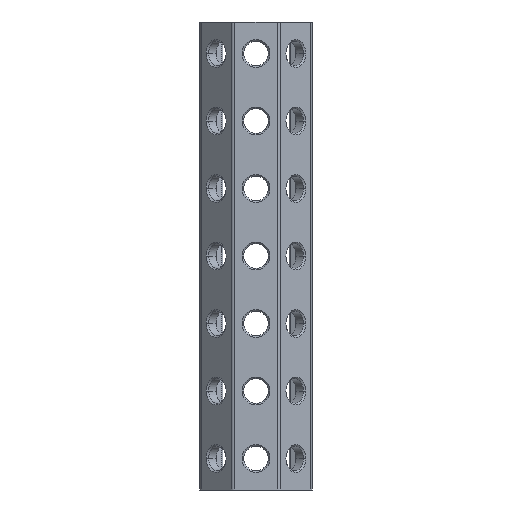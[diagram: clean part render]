
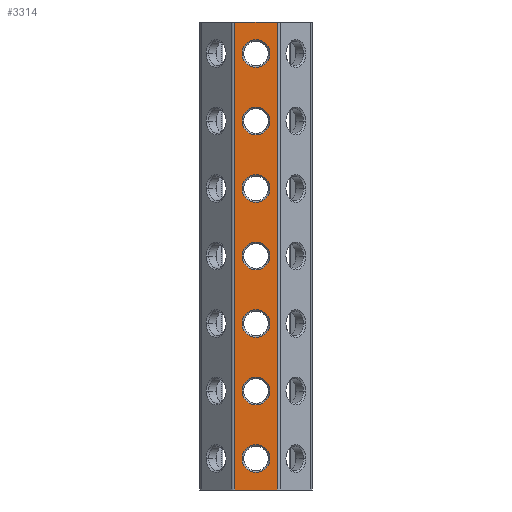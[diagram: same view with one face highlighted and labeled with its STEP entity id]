
A CAD part, left-side view. The second image highlights one B-rep face of the part: STEP entity #3314.
In plain terms, the highlighted planar face has unit normal (-1, 0, 0).
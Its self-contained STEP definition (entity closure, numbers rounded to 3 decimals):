
#1012=CARTESIAN_POINT('Vertex',(-25.,-9.527,-208.)) ;
#1017=CARTESIAN_POINT('Line Origine',(-25.,0.,-208.)) ;
#1021=CARTESIAN_POINT('Vertex',(-25.,9.527,-208.)) ;
#1732=CARTESIAN_POINT('Vertex',(-25.,9.527,0.)) ;
#1735=CARTESIAN_POINT('Line Origine',(-25.,0.,0.)) ;
#1739=CARTESIAN_POINT('Vertex',(-25.,-9.527,0.)) ;
#2781=CARTESIAN_POINT('Line Origine',(-25.,9.527,-4078.)) ;
#3109=CARTESIAN_POINT('Line Origine',(-25.,-9.527,-4078.)) ;
#3121=CARTESIAN_POINT('Axis2P3D Location',(-25.,0.,-4078.)) ;
#3132=CARTESIAN_POINT('Axis2P3D Location',(-25.,0.,-14.)) ;
#3136=CARTESIAN_POINT('Vertex',(-25.,-3.1,-19.369)) ;
#3138=CARTESIAN_POINT('Vertex',(-25.,-6.2,-14.)) ;
#3141=CARTESIAN_POINT('Axis2P3D Location',(-25.,0.,-14.)) ;
#3145=CARTESIAN_POINT('Vertex',(-25.,6.2,-14.)) ;
#3148=CARTESIAN_POINT('Axis2P3D Location',(-25.,0.,-14.)) ;
#3158=CARTESIAN_POINT('Axis2P3D Location',(-25.,0.,-44.)) ;
#3162=CARTESIAN_POINT('Vertex',(-25.,-3.1,-49.369)) ;
#3164=CARTESIAN_POINT('Vertex',(-25.,-6.2,-44.)) ;
#3167=CARTESIAN_POINT('Axis2P3D Location',(-25.,0.,-44.)) ;
#3171=CARTESIAN_POINT('Vertex',(-25.,6.2,-44.)) ;
#3174=CARTESIAN_POINT('Axis2P3D Location',(-25.,0.,-44.)) ;
#3184=CARTESIAN_POINT('Axis2P3D Location',(-25.,0.,-74.)) ;
#3188=CARTESIAN_POINT('Vertex',(-25.,-3.1,-79.369)) ;
#3190=CARTESIAN_POINT('Vertex',(-25.,-6.2,-74.)) ;
#3193=CARTESIAN_POINT('Axis2P3D Location',(-25.,0.,-74.)) ;
#3197=CARTESIAN_POINT('Vertex',(-25.,6.2,-74.)) ;
#3200=CARTESIAN_POINT('Axis2P3D Location',(-25.,0.,-74.)) ;
#3210=CARTESIAN_POINT('Axis2P3D Location',(-25.,0.,-104.)) ;
#3214=CARTESIAN_POINT('Vertex',(-25.,-3.1,-109.369)) ;
#3216=CARTESIAN_POINT('Vertex',(-25.,-6.2,-104.)) ;
#3219=CARTESIAN_POINT('Axis2P3D Location',(-25.,0.,-104.)) ;
#3223=CARTESIAN_POINT('Vertex',(-25.,6.2,-104.)) ;
#3226=CARTESIAN_POINT('Axis2P3D Location',(-25.,0.,-104.)) ;
#3236=CARTESIAN_POINT('Axis2P3D Location',(-25.,0.,-134.)) ;
#3240=CARTESIAN_POINT('Vertex',(-25.,-3.1,-139.369)) ;
#3242=CARTESIAN_POINT('Vertex',(-25.,-6.2,-134.)) ;
#3245=CARTESIAN_POINT('Axis2P3D Location',(-25.,0.,-134.)) ;
#3249=CARTESIAN_POINT('Vertex',(-25.,6.2,-134.)) ;
#3252=CARTESIAN_POINT('Axis2P3D Location',(-25.,0.,-134.)) ;
#3262=CARTESIAN_POINT('Axis2P3D Location',(-25.,0.,-164.)) ;
#3266=CARTESIAN_POINT('Vertex',(-25.,-3.1,-169.369)) ;
#3268=CARTESIAN_POINT('Vertex',(-25.,-6.2,-164.)) ;
#3271=CARTESIAN_POINT('Axis2P3D Location',(-25.,0.,-164.)) ;
#3275=CARTESIAN_POINT('Vertex',(-25.,6.2,-164.)) ;
#3278=CARTESIAN_POINT('Axis2P3D Location',(-25.,0.,-164.)) ;
#3288=CARTESIAN_POINT('Axis2P3D Location',(-25.,0.,-194.)) ;
#3292=CARTESIAN_POINT('Vertex',(-25.,-3.1,-199.369)) ;
#3294=CARTESIAN_POINT('Vertex',(-25.,-6.2,-194.)) ;
#3297=CARTESIAN_POINT('Axis2P3D Location',(-25.,0.,-194.)) ;
#3301=CARTESIAN_POINT('Vertex',(-25.,6.2,-194.)) ;
#3304=CARTESIAN_POINT('Axis2P3D Location',(-25.,0.,-194.)) ;
#1018=DIRECTION('Vector Direction',(0.,-1.,0.)) ;
#1736=DIRECTION('Vector Direction',(0.,-1.,0.)) ;
#2782=DIRECTION('Vector Direction',(0.,0.,1.)) ;
#3110=DIRECTION('Vector Direction',(0.,0.,1.)) ;
#3122=DIRECTION('Axis2P3D Direction',(-1.,0.,0.)) ;
#3123=DIRECTION('Axis2P3D XDirection',(0.,-1.,0.)) ;
#3133=DIRECTION('Axis2P3D Direction',(-1.,0.,0.)) ;
#3142=DIRECTION('Axis2P3D Direction',(-1.,0.,0.)) ;
#3149=DIRECTION('Axis2P3D Direction',(-1.,0.,0.)) ;
#3159=DIRECTION('Axis2P3D Direction',(-1.,0.,0.)) ;
#3168=DIRECTION('Axis2P3D Direction',(-1.,0.,0.)) ;
#3175=DIRECTION('Axis2P3D Direction',(-1.,0.,0.)) ;
#3185=DIRECTION('Axis2P3D Direction',(-1.,0.,0.)) ;
#3194=DIRECTION('Axis2P3D Direction',(-1.,0.,0.)) ;
#3201=DIRECTION('Axis2P3D Direction',(-1.,0.,0.)) ;
#3211=DIRECTION('Axis2P3D Direction',(-1.,0.,0.)) ;
#3220=DIRECTION('Axis2P3D Direction',(-1.,0.,0.)) ;
#3227=DIRECTION('Axis2P3D Direction',(-1.,0.,0.)) ;
#3237=DIRECTION('Axis2P3D Direction',(-1.,0.,0.)) ;
#3246=DIRECTION('Axis2P3D Direction',(-1.,0.,0.)) ;
#3253=DIRECTION('Axis2P3D Direction',(-1.,0.,0.)) ;
#3263=DIRECTION('Axis2P3D Direction',(-1.,0.,0.)) ;
#3272=DIRECTION('Axis2P3D Direction',(-1.,0.,0.)) ;
#3279=DIRECTION('Axis2P3D Direction',(-1.,0.,0.)) ;
#3289=DIRECTION('Axis2P3D Direction',(-1.,0.,0.)) ;
#3298=DIRECTION('Axis2P3D Direction',(-1.,0.,0.)) ;
#3305=DIRECTION('Axis2P3D Direction',(-1.,0.,0.)) ;
#3124=AXIS2_PLACEMENT_3D('Plane Axis2P3D',#3121,#3122,#3123) ;
#3134=AXIS2_PLACEMENT_3D('Circle Axis2P3D',#3132,#3133,$) ;
#3143=AXIS2_PLACEMENT_3D('Circle Axis2P3D',#3141,#3142,$) ;
#3150=AXIS2_PLACEMENT_3D('Circle Axis2P3D',#3148,#3149,$) ;
#3160=AXIS2_PLACEMENT_3D('Circle Axis2P3D',#3158,#3159,$) ;
#3169=AXIS2_PLACEMENT_3D('Circle Axis2P3D',#3167,#3168,$) ;
#3176=AXIS2_PLACEMENT_3D('Circle Axis2P3D',#3174,#3175,$) ;
#3186=AXIS2_PLACEMENT_3D('Circle Axis2P3D',#3184,#3185,$) ;
#3195=AXIS2_PLACEMENT_3D('Circle Axis2P3D',#3193,#3194,$) ;
#3202=AXIS2_PLACEMENT_3D('Circle Axis2P3D',#3200,#3201,$) ;
#3212=AXIS2_PLACEMENT_3D('Circle Axis2P3D',#3210,#3211,$) ;
#3221=AXIS2_PLACEMENT_3D('Circle Axis2P3D',#3219,#3220,$) ;
#3228=AXIS2_PLACEMENT_3D('Circle Axis2P3D',#3226,#3227,$) ;
#3238=AXIS2_PLACEMENT_3D('Circle Axis2P3D',#3236,#3237,$) ;
#3247=AXIS2_PLACEMENT_3D('Circle Axis2P3D',#3245,#3246,$) ;
#3254=AXIS2_PLACEMENT_3D('Circle Axis2P3D',#3252,#3253,$) ;
#3264=AXIS2_PLACEMENT_3D('Circle Axis2P3D',#3262,#3263,$) ;
#3273=AXIS2_PLACEMENT_3D('Circle Axis2P3D',#3271,#3272,$) ;
#3280=AXIS2_PLACEMENT_3D('Circle Axis2P3D',#3278,#3279,$) ;
#3290=AXIS2_PLACEMENT_3D('Circle Axis2P3D',#3288,#3289,$) ;
#3299=AXIS2_PLACEMENT_3D('Circle Axis2P3D',#3297,#3298,$) ;
#3306=AXIS2_PLACEMENT_3D('Circle Axis2P3D',#3304,#3305,$) ;
#3127=ORIENTED_EDGE('',*,*,#3113,.T.) ;
#3128=ORIENTED_EDGE('',*,*,#1741,.F.) ;
#3129=ORIENTED_EDGE('',*,*,#2785,.F.) ;
#3130=ORIENTED_EDGE('',*,*,#1023,.T.) ;
#3154=ORIENTED_EDGE('',*,*,#3140,.F.) ;
#3155=ORIENTED_EDGE('',*,*,#3147,.F.) ;
#3156=ORIENTED_EDGE('',*,*,#3152,.F.) ;
#3180=ORIENTED_EDGE('',*,*,#3166,.F.) ;
#3181=ORIENTED_EDGE('',*,*,#3173,.F.) ;
#3182=ORIENTED_EDGE('',*,*,#3178,.F.) ;
#3206=ORIENTED_EDGE('',*,*,#3192,.F.) ;
#3207=ORIENTED_EDGE('',*,*,#3199,.F.) ;
#3208=ORIENTED_EDGE('',*,*,#3204,.F.) ;
#3232=ORIENTED_EDGE('',*,*,#3218,.F.) ;
#3233=ORIENTED_EDGE('',*,*,#3225,.F.) ;
#3234=ORIENTED_EDGE('',*,*,#3230,.F.) ;
#3258=ORIENTED_EDGE('',*,*,#3244,.F.) ;
#3259=ORIENTED_EDGE('',*,*,#3251,.F.) ;
#3260=ORIENTED_EDGE('',*,*,#3256,.F.) ;
#3284=ORIENTED_EDGE('',*,*,#3270,.F.) ;
#3285=ORIENTED_EDGE('',*,*,#3277,.F.) ;
#3286=ORIENTED_EDGE('',*,*,#3282,.F.) ;
#3310=ORIENTED_EDGE('',*,*,#3296,.F.) ;
#3311=ORIENTED_EDGE('',*,*,#3303,.F.) ;
#3312=ORIENTED_EDGE('',*,*,#3308,.F.) ;
#3157=FACE_BOUND('',#3153,.T.) ;
#3183=FACE_BOUND('',#3179,.T.) ;
#3209=FACE_BOUND('',#3205,.T.) ;
#3235=FACE_BOUND('',#3231,.T.) ;
#3261=FACE_BOUND('',#3257,.T.) ;
#3287=FACE_BOUND('',#3283,.T.) ;
#3313=FACE_BOUND('',#3309,.T.) ;
#1019=VECTOR('Line Direction',#1018,1.) ;
#1737=VECTOR('Line Direction',#1736,1.) ;
#2783=VECTOR('Line Direction',#2782,1.) ;
#3111=VECTOR('Line Direction',#3110,1.) ;
#3314=ADVANCED_FACE('\X2\51F853F0\X0\-\X2\62C94F38\X0\1',(#3131,#3157,#3183,#3209,#3235,#3261,#3287,#3313),#3125,.T.) ;
#3135=CIRCLE('generated circle',#3134,6.2) ;
#3144=CIRCLE('generated circle',#3143,6.2) ;
#3151=CIRCLE('generated circle',#3150,6.2) ;
#3161=CIRCLE('generated circle',#3160,6.2) ;
#3170=CIRCLE('generated circle',#3169,6.2) ;
#3177=CIRCLE('generated circle',#3176,6.2) ;
#3187=CIRCLE('generated circle',#3186,6.2) ;
#3196=CIRCLE('generated circle',#3195,6.2) ;
#3203=CIRCLE('generated circle',#3202,6.2) ;
#3213=CIRCLE('generated circle',#3212,6.2) ;
#3222=CIRCLE('generated circle',#3221,6.2) ;
#3229=CIRCLE('generated circle',#3228,6.2) ;
#3239=CIRCLE('generated circle',#3238,6.2) ;
#3248=CIRCLE('generated circle',#3247,6.2) ;
#3255=CIRCLE('generated circle',#3254,6.2) ;
#3265=CIRCLE('generated circle',#3264,6.2) ;
#3274=CIRCLE('generated circle',#3273,6.2) ;
#3281=CIRCLE('generated circle',#3280,6.2) ;
#3291=CIRCLE('generated circle',#3290,6.2) ;
#3300=CIRCLE('generated circle',#3299,6.2) ;
#3307=CIRCLE('generated circle',#3306,6.2) ;
#1023=EDGE_CURVE('',#1022,#1013,#1020,.T.) ;
#1741=EDGE_CURVE('',#1733,#1740,#1738,.T.) ;
#2785=EDGE_CURVE('',#1022,#1733,#2784,.T.) ;
#3113=EDGE_CURVE('',#1013,#1740,#3112,.T.) ;
#3140=EDGE_CURVE('',#3137,#3139,#3135,.T.) ;
#3147=EDGE_CURVE('',#3146,#3137,#3144,.T.) ;
#3152=EDGE_CURVE('',#3139,#3146,#3151,.T.) ;
#3166=EDGE_CURVE('',#3163,#3165,#3161,.T.) ;
#3173=EDGE_CURVE('',#3172,#3163,#3170,.T.) ;
#3178=EDGE_CURVE('',#3165,#3172,#3177,.T.) ;
#3192=EDGE_CURVE('',#3189,#3191,#3187,.T.) ;
#3199=EDGE_CURVE('',#3198,#3189,#3196,.T.) ;
#3204=EDGE_CURVE('',#3191,#3198,#3203,.T.) ;
#3218=EDGE_CURVE('',#3215,#3217,#3213,.T.) ;
#3225=EDGE_CURVE('',#3224,#3215,#3222,.T.) ;
#3230=EDGE_CURVE('',#3217,#3224,#3229,.T.) ;
#3244=EDGE_CURVE('',#3241,#3243,#3239,.T.) ;
#3251=EDGE_CURVE('',#3250,#3241,#3248,.T.) ;
#3256=EDGE_CURVE('',#3243,#3250,#3255,.T.) ;
#3270=EDGE_CURVE('',#3267,#3269,#3265,.T.) ;
#3277=EDGE_CURVE('',#3276,#3267,#3274,.T.) ;
#3282=EDGE_CURVE('',#3269,#3276,#3281,.T.) ;
#3296=EDGE_CURVE('',#3293,#3295,#3291,.T.) ;
#3303=EDGE_CURVE('',#3302,#3293,#3300,.T.) ;
#3308=EDGE_CURVE('',#3295,#3302,#3307,.T.) ;
#3126=EDGE_LOOP('',(#3127,#3128,#3129,#3130)) ;
#3153=EDGE_LOOP('',(#3154,#3155,#3156)) ;
#3179=EDGE_LOOP('',(#3180,#3181,#3182)) ;
#3205=EDGE_LOOP('',(#3206,#3207,#3208)) ;
#3231=EDGE_LOOP('',(#3232,#3233,#3234)) ;
#3257=EDGE_LOOP('',(#3258,#3259,#3260)) ;
#3283=EDGE_LOOP('',(#3284,#3285,#3286)) ;
#3309=EDGE_LOOP('',(#3310,#3311,#3312)) ;
#3131=FACE_OUTER_BOUND('',#3126,.T.) ;
#1020=LINE('Line',#1017,#1019) ;
#1738=LINE('Line',#1735,#1737) ;
#2784=LINE('Line',#2781,#2783) ;
#3112=LINE('Line',#3109,#3111) ;
#3125=PLANE('',#3124) ;
#1013=VERTEX_POINT('',#1012) ;
#1022=VERTEX_POINT('',#1021) ;
#1733=VERTEX_POINT('',#1732) ;
#1740=VERTEX_POINT('',#1739) ;
#3137=VERTEX_POINT('',#3136) ;
#3139=VERTEX_POINT('',#3138) ;
#3146=VERTEX_POINT('',#3145) ;
#3163=VERTEX_POINT('',#3162) ;
#3165=VERTEX_POINT('',#3164) ;
#3172=VERTEX_POINT('',#3171) ;
#3189=VERTEX_POINT('',#3188) ;
#3191=VERTEX_POINT('',#3190) ;
#3198=VERTEX_POINT('',#3197) ;
#3215=VERTEX_POINT('',#3214) ;
#3217=VERTEX_POINT('',#3216) ;
#3224=VERTEX_POINT('',#3223) ;
#3241=VERTEX_POINT('',#3240) ;
#3243=VERTEX_POINT('',#3242) ;
#3250=VERTEX_POINT('',#3249) ;
#3267=VERTEX_POINT('',#3266) ;
#3269=VERTEX_POINT('',#3268) ;
#3276=VERTEX_POINT('',#3275) ;
#3293=VERTEX_POINT('',#3292) ;
#3295=VERTEX_POINT('',#3294) ;
#3302=VERTEX_POINT('',#3301) ;
